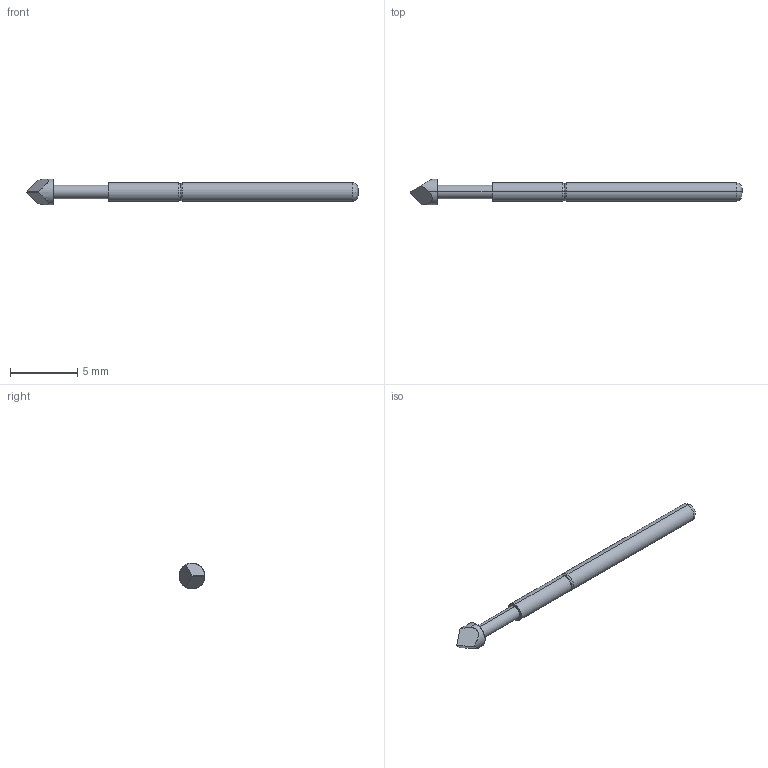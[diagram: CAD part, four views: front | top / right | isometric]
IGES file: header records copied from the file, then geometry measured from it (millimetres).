
Start section: SolidWorks IGES file using analytic representation for surfaces
Global section: file name: Z:\probe solid model mockups\Solidworks models\IGES Files\EPA-2\EPA-2T.IGS; native system: SolidWorks 2006 by SolidWorks Corporation; preprocessor: SolidWorks 2006 by SolidWorks Corporation; author: tsakatani; date: 071220.162431; units: inch
Bounding box: 24.64 x 1.91 x 1.91 mm (x, y, z)
Surface area: 106 mm2 (no closed solid volume)
Topology: 0 solids, 0 shells, 20 faces, 204 edges, 204 vertices
Faces by surface type: bspline 12, revolution 8
